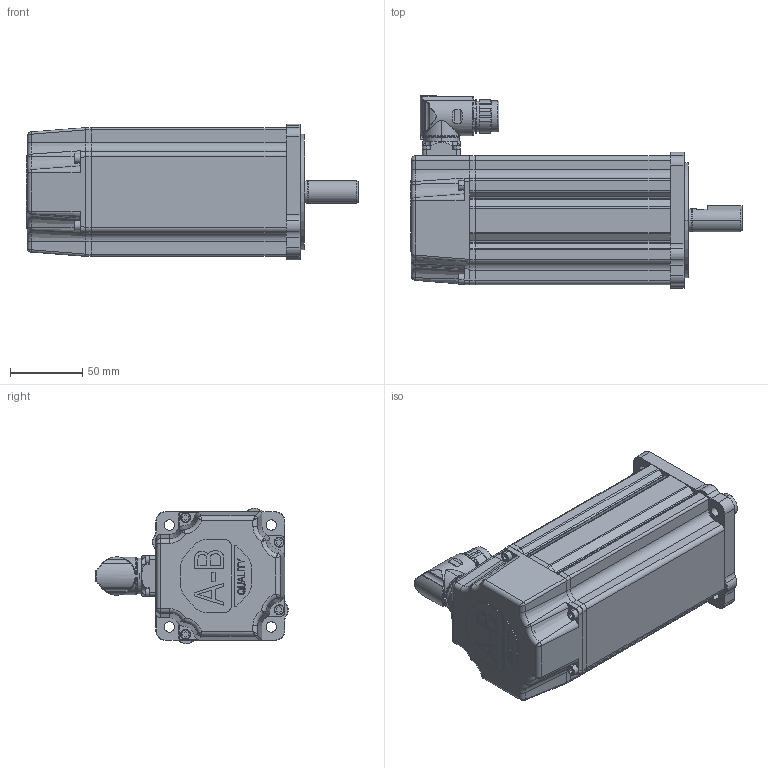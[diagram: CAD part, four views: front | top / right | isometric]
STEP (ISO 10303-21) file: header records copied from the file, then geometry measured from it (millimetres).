
FILE_DESCRIPTION (( 'STEP AP214' ), '1' );
FILE_NAME ('Rockwell Automation-$PARTNUMBER.STEP', '2014-07-24T09:41:41', ( 'Windows User' ), ( '' ), 'SwSTEP 2.0', 'SolidWorks 2014', '' );
FILE_SCHEMA (( 'AUTOMOTIVE_DESIGN' ));
Length unit declared in the file: inch
Products named in the file (4): Rockwell Automation-$PARTNUMBER_Rockwell Automation-VPF-x1002x-xJx4xx_Connector; Rockwell Automation-$PARTNUMBER_Rockwell Automation-VPF-x1002x-xJx4xx_VPF-100-Shaft_1002-SHAFT-KEYED-BRAKE; Rockwell Automation-$PARTNUMBER_Rockwell Automation-VPF-x1002x-xJx4xx_VPF-100-Body_1002-Brake; Rockwell Automation-$PARTNUMBER
Assembly tree (3 placements, depth 2):
  Rockwell Automation-$PARTNUMBER
    Rockwell Automation-$PARTNUMBER_Rockwell Automation-VPF-x1002x-xJx4xx_VPF-100-Body_1002-Brake
    Rockwell Automation-$PARTNUMBER_Rockwell Automation-VPF-x1002x-xJx4xx_VPF-100-Shaft_1002-SHAFT-KEYED-BRAKE
    Rockwell Automation-$PARTNUMBER_Rockwell Automation-VPF-x1002x-xJx4xx_Connector
Bounding box: 230.5 x 133.69 x 94.41 mm (x, y, z)
Volume: 593803.2 mm3; surface area: 177719.1 mm2
Topology: 8 solids, 8 shells, 1019 faces, 2509 edges, 1579 vertices
Faces by surface type: plane 438, cylinder 336, cone 93, bspline 92, torus 40, sphere 20
Entity records: 51387 total; most frequent: CARTESIAN_POINT 14012, ORIENTED_EDGE 4974, DIRECTION 4967, EDGE_CURVE 2487, AXIS2_PLACEMENT_3D 1799, VERTEX_POINT 1579, LINE 1369, VECTOR 1369
